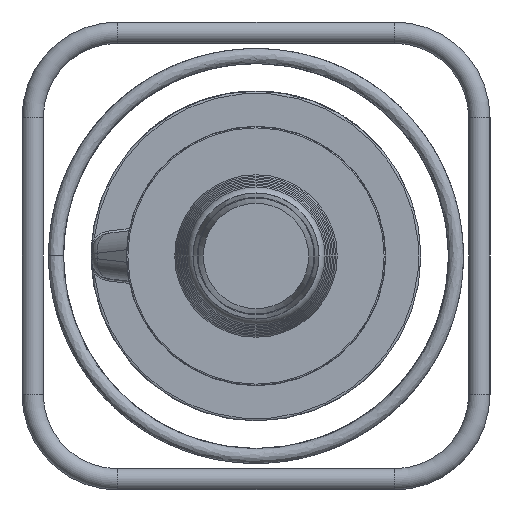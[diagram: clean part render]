
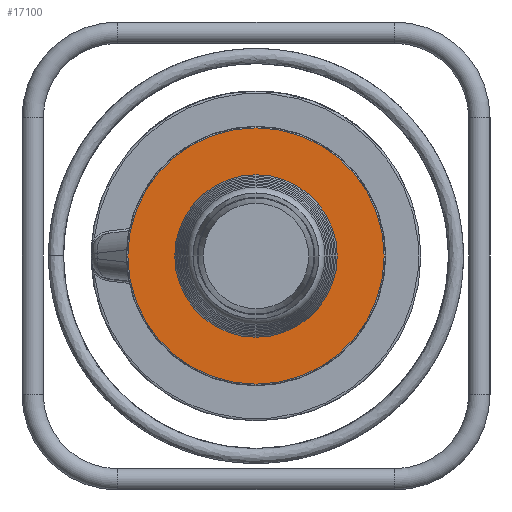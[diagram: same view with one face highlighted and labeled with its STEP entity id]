
A CAD part, left-side view. The second image highlights one B-rep face of the part: STEP entity #17100.
In plain terms, the highlighted planar face has unit normal (-1, 0, 0).
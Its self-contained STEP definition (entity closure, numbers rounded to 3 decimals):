
#113=FACE_BOUND('',#5478,.T.);
#792=PLANE('',#18115);
#4447=FACE_OUTER_BOUND('',#5477,.T.);
#5477=EDGE_LOOP('',(#14885));
#5478=EDGE_LOOP('',(#14886));
#6097=CIRCLE('',#18116,120.5);
#6098=CIRCLE('',#18117,71.675);
#7850=VERTEX_POINT('',#42670);
#7851=VERTEX_POINT('',#42672);
#10231=EDGE_CURVE('',#7850,#7850,#6097,.T.);
#10232=EDGE_CURVE('',#7851,#7851,#6098,.T.);
#14885=ORIENTED_EDGE('',*,*,#10231,.F.);
#14886=ORIENTED_EDGE('',*,*,#10232,.F.);
#17100=ADVANCED_FACE('',(#4447,#113),#792,.T.);
#18115=AXIS2_PLACEMENT_3D('',#42669,#21101,#21102);
#18116=AXIS2_PLACEMENT_3D('',#42671,#21103,#21104);
#18117=AXIS2_PLACEMENT_3D('',#42673,#21105,#21106);
#21101=DIRECTION('center_axis',(-1.,0.,0.));
#21102=DIRECTION('ref_axis',(0.,-1.,0.));
#21103=DIRECTION('center_axis',(1.,0.,0.));
#21104=DIRECTION('ref_axis',(0.,0.,
-1.));
#21105=DIRECTION('center_axis',(-1.,0.,0.));
#21106=DIRECTION('ref_axis',(0.,-1.,0.));
#42669=CARTESIAN_POINT('Origin',(-344.058,-0.004,
-100.25));
#42670=CARTESIAN_POINT('',(-344.058,-120.504,0.));
#42671=CARTESIAN_POINT('Origin',(-344.058,-0.004,
0.));
#42672=CARTESIAN_POINT('',(-344.058,71.67,0.));
#42673=CARTESIAN_POINT('Origin',(-344.058,-0.004,
0.));
